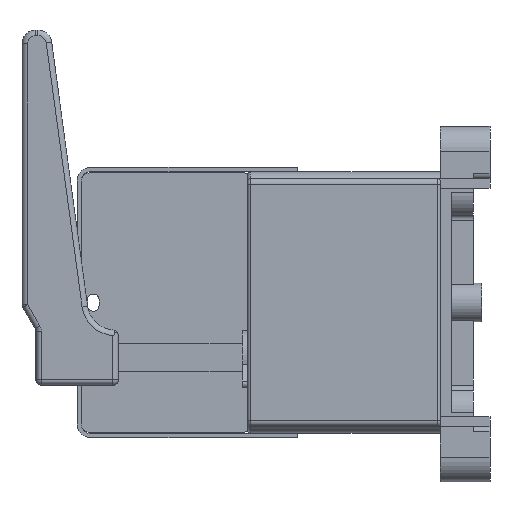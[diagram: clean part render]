
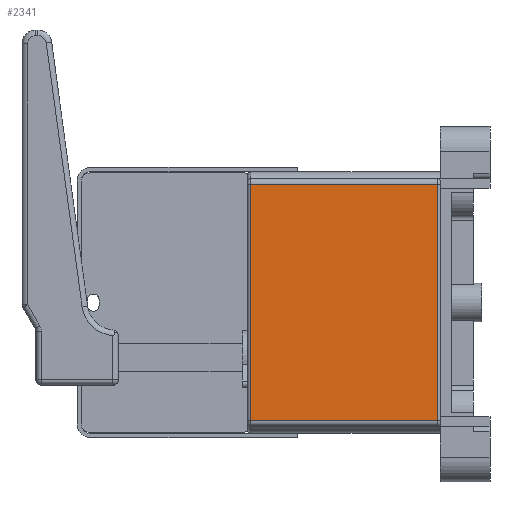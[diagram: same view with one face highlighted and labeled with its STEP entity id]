
A CAD part, left-side view. The second image highlights one B-rep face of the part: STEP entity #2341.
In plain terms, the highlighted planar face has unit normal (-1, 0, 0).
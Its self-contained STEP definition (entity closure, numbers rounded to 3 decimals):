
#2341=ADVANCED_FACE('',(#3775),#2926,.F.);
#2926=PLANE('',#19624);
#3775=FACE_OUTER_BOUND('',#4891,.T.);
#4891=EDGE_LOOP('',(#9698,#9699,#9700,#9701));
#9698=ORIENTED_EDGE('',*,*,#14322,.F.);
#9699=ORIENTED_EDGE('',*,*,#14307,.T.);
#9700=ORIENTED_EDGE('',*,*,#14323,.T.);
#9701=ORIENTED_EDGE('',*,*,#14007,.T.);
#11593=VERTEX_POINT('',#29341);
#11597=VERTEX_POINT('',#29350);
#11777=VERTEX_POINT('',#30037);
#11781=VERTEX_POINT('',#30069);
#14007=EDGE_CURVE('',#11593,#11597,#15990,.T.);
#14307=EDGE_CURVE('',#11777,#11781,#16150,.T.);
#14322=EDGE_CURVE('',#11777,#11597,#16157,.T.);
#14323=EDGE_CURVE('',#11781,#11593,#16158,.T.);
#15990=LINE('',#29351,#17825);
#16150=LINE('',#30070,#17985);
#16157=LINE('',#30123,#17992);
#16158=LINE('',#30125,#17993);
#17825=VECTOR('',#23983,1.);
#17985=VECTOR('',#24633,1.);
#17992=VECTOR('',#24660,1.);
#17993=VECTOR('',#24663,1.);
#19624=AXIS2_PLACEMENT_3D('',#30126,#24664,#24665);
#23983=DIRECTION('',(0.,0.,1.));
#24633=DIRECTION('',(0.,0.,-1.));
#24660=DIRECTION('',(0.,-1.,0.));
#24663=DIRECTION('',(0.,-1.,0.));
#24664=DIRECTION('',(1.,0.,0.));
#24665=DIRECTION('',(0.,0.,-1.));
#29341=CARTESIAN_POINT('',(-41.,1.,-43.));
#29350=CARTESIAN_POINT('',(-41.,1.,43.));
#29351=CARTESIAN_POINT('',(-41.,1.,-43.));
#30037=CARTESIAN_POINT('',(-41.,69.,43.));
#30069=CARTESIAN_POINT('',(-41.,69.,-43.));
#30070=CARTESIAN_POINT('',(-41.,69.,-43.));
#30123=CARTESIAN_POINT('',(-41.,35.,43.));
#30125=CARTESIAN_POINT('',(-41.,35.,-43.));
#30126=CARTESIAN_POINT('',(-41.,35.,-43.));
